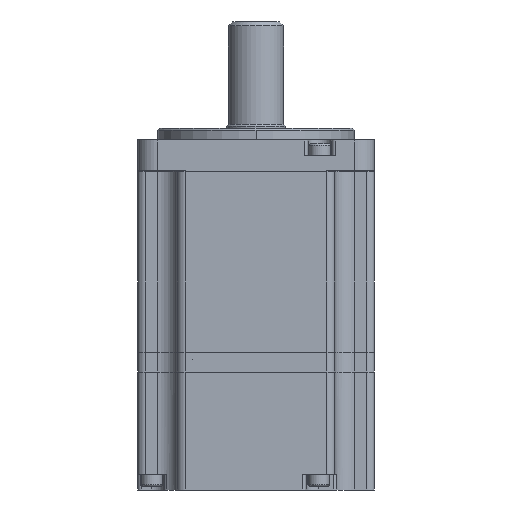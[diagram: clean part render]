
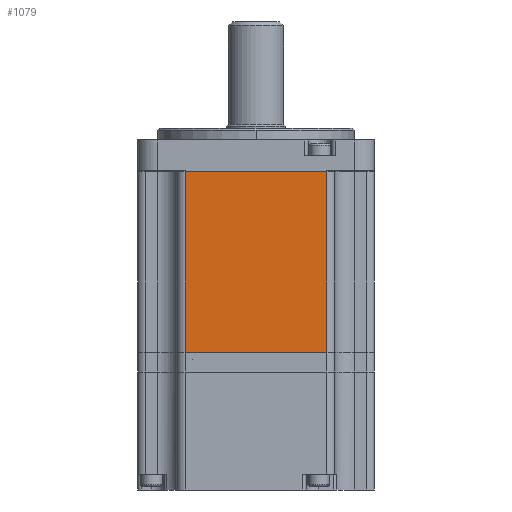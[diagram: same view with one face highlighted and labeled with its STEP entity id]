
A CAD part, front view. The second image highlights one B-rep face of the part: STEP entity #1079.
In plain terms, the highlighted planar face has unit normal (0, -1, 0).
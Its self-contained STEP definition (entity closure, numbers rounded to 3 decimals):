
#1079 = ADVANCED_FACE ( 'NONE', ( #19806 ), #23209, .F. ) ;
#5126 = VERTEX_POINT ( 'NONE', #21628 ) ;
#5127 = VERTEX_POINT ( 'NONE', #21629 ) ;
#5133 = VERTEX_POINT ( 'NONE', #21635 ) ;
#5136 = VERTEX_POINT ( 'NONE', #21638 ) ;
#7493 = ORIENTED_EDGE ( 'NONE', *, *, #9626, .T. ) ;
#7494 = ORIENTED_EDGE ( 'NONE', *, *, #9647, .T. ) ;
#7495 = ORIENTED_EDGE ( 'NONE', *, *, #9611, .F. ) ;
#7496 = ORIENTED_EDGE ( 'NONE', *, *, #9648, .T. ) ;
#7686 = EDGE_LOOP ( 'NONE', ( #7493, #7494, #7495, #7496 ) ) ;
#9611 = EDGE_CURVE ( 'NONE', #5126, #5127, #37707, .T. ) ;
#9626 = EDGE_CURVE ( 'NONE', #5133, #5136, #37727, .T. ) ;
#9647 = EDGE_CURVE ( 'NONE', #5136, #5127, #37759, .T. ) ;
#9648 = EDGE_CURVE ( 'NONE', #5126, #5133, #37761, .T. ) ;
#15883 = AXIS2_PLACEMENT_3D ( 'NONE', #23195, #23212, #23214 ) ;
#19806 = FACE_OUTER_BOUND ( 'NONE', #7686, .T. ) ;
#21628 = CARTESIAN_POINT ( 'NONE',  ( -18., -30.1, 46. ) ) ;
#21629 = CARTESIAN_POINT ( 'NONE',  ( 18., -30.1, 46. ) ) ;
#21635 = CARTESIAN_POINT ( 'NONE',  ( -18., -30.1, 0. ) ) ;
#21638 = CARTESIAN_POINT ( 'NONE',  ( 18., -30.1, 0. ) ) ;
#23195 = CARTESIAN_POINT ( 'NONE',  ( -20., -30.1, 46. ) ) ;
#23209 = PLANE ( 'NONE',  #15883 ) ;
#23212 = DIRECTION ( 'NONE',  ( 0., 1., 0. ) ) ;
#23214 = DIRECTION ( 'NONE',  ( 0., 0., 1. ) ) ;
#37707 = LINE ( 'NONE', #38801, #37709 ) ;
#37709 = VECTOR ( 'NONE', #38802, 1000. ) ;
#37727 = LINE ( 'NONE', #38845, #37729 ) ;
#37729 = VECTOR ( 'NONE', #38840, 1000. ) ;
#37759 = LINE ( 'NONE', #38898, #37762 ) ;
#37761 = LINE ( 'NONE', #38900, #37764 ) ;
#37762 = VECTOR ( 'NONE', #38899, 1000. ) ;
#37764 = VECTOR ( 'NONE', #38901, 1000. ) ;
#38801 = CARTESIAN_POINT ( 'NONE',  ( -20., -30.1, 46. ) ) ;
#38802 = DIRECTION ( 'NONE',  ( 1., 0., 0. ) ) ;
#38840 = DIRECTION ( 'NONE',  ( 1., 0., 0. ) ) ;
#38845 = CARTESIAN_POINT ( 'NONE',  ( -20., -30.1, 0. ) ) ;
#38898 = CARTESIAN_POINT ( 'NONE',  ( 18., -30.1, 46. ) ) ;
#38899 = DIRECTION ( 'NONE',  ( 0., 0., 1. ) ) ;
#38900 = CARTESIAN_POINT ( 'NONE',  ( -18., -30.1, 46. ) ) ;
#38901 = DIRECTION ( 'NONE',  ( 0., 0., -1. ) ) ;
